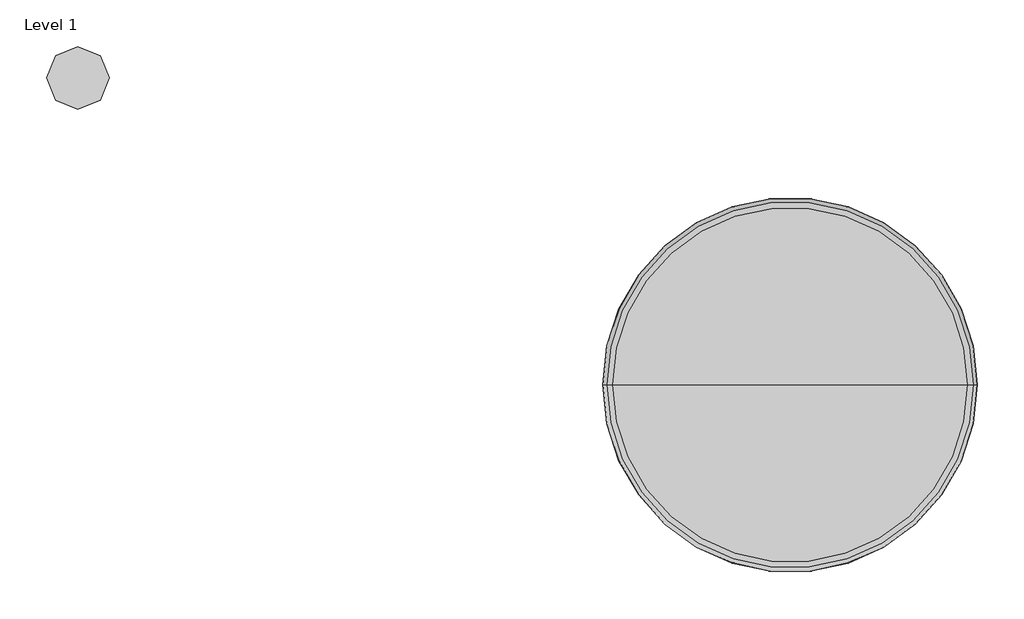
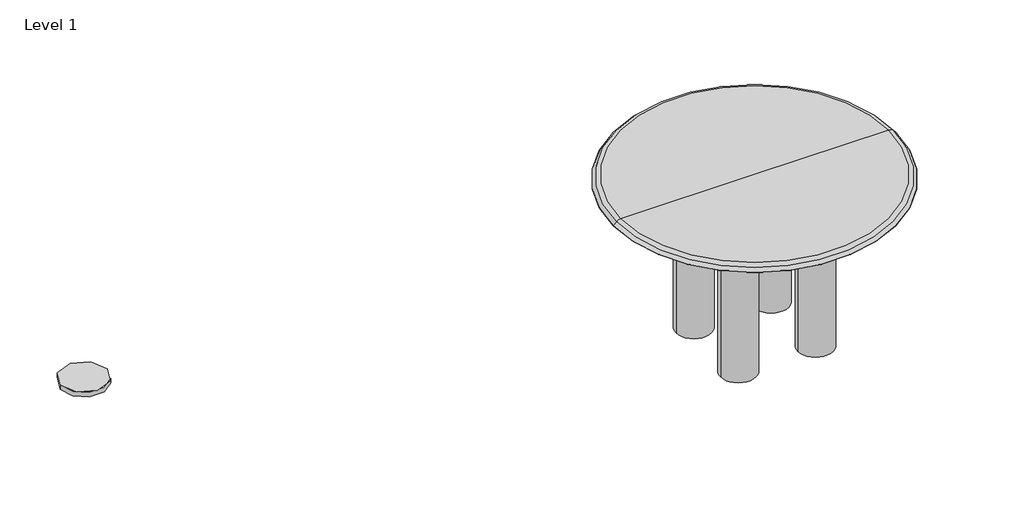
# One storey: 1 furniture element, 1 proxy.
"""IFC4 building model written with IfcOpenShell, lengths in millimetres."""

from ifc_helpers import new_model, si_unit, origin, place, context, project, spatial, transform, mapped, element, save
from components import materialmodel_materialmodel_ac00f72a, furniture_0e523939

model = new_model("IFC4")

# Units and contexts
model_context = context("Model", 3, world=origin())
ifc_project = project(units=[si_unit("LENGTHUNIT", "METRE", prefix="MILLI")], contexts=[model_context])

# Site, building, storey
site = spatial("IfcSite", under=ifc_project)
building = spatial("IfcBuilding", under=site)
storey = spatial("IfcBuildingStorey", under=building, Name="Level 1", Elevation=0.0)

# Proxy
placement = place(None, origin())
materialmodel_materialmodel_shape = materialmodel_materialmodel_ac00f72a(model_context)
element("IfcBuildingElementProxy", 1, Name="MaterialModel : MaterialModel", ObjectType="MaterialModel : MaterialModel", at=placement, inside=storey, context=model_context, shape_type="MappedRepresentation", body=[
    mapped(materialmodel_materialmodel_shape, transform((-11056.2597639, 7592.9712076, 0.0), x_axis=(1.0, 0.0, 0.0), y_axis=(0.0, 1.0, 0.0), z_axis=(0.0, 0.0, 1.0))),
])

# Furniture
furniture_shape = furniture_0e523939(model_context)
element("IfcFurniture", 2, ObjectType="Fredericia - Islet Dining Table - 6775 : Fredericia - Islet Dining Table - 6775", at=placement, inside=storey, context=model_context, shape_type="MappedRepresentation", body=[
    mapped(furniture_shape, transform((-8781.7577746, 6612.5430667, 0.0), x_axis=(1.0, 0.0, 0.0), y_axis=(0.0, 1.0, 0.0), z_axis=(0.0, 0.0, 1.0))),
])

save(model, "model.ifc")
